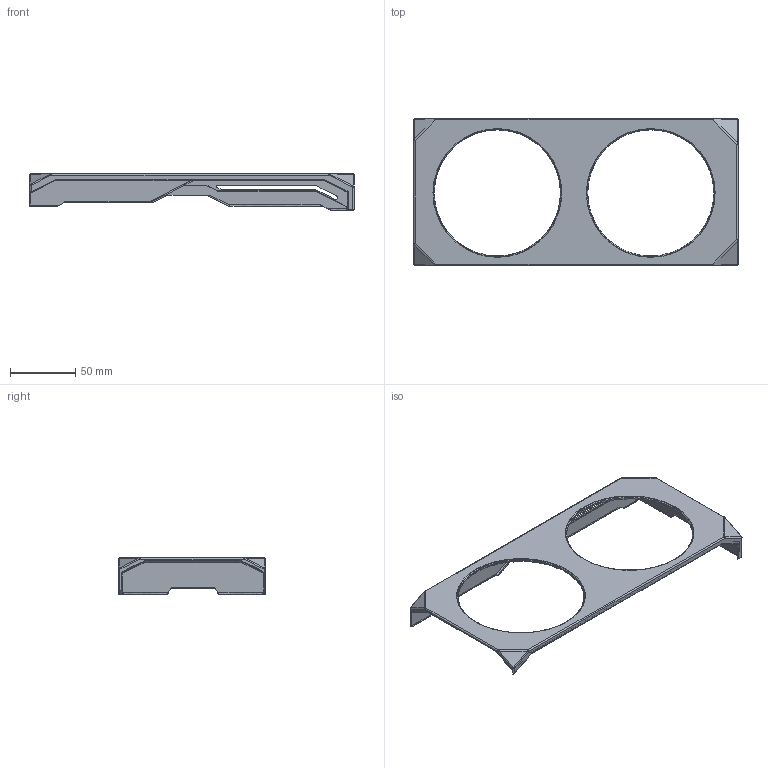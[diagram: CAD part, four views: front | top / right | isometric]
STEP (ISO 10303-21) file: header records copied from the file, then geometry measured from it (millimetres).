
FILE_DESCRIPTION((''),'2;1');
FILE_NAME('F306_MAKER_COVER','2023-04-18T15:16:00',('Kate'),(''),'CREO PARAMETRIC BY PTC INC, 2020281','CREO PARAMETRIC BY PTC INC, 2020281','');
FILE_SCHEMA(('CONFIG_CONTROL_DESIGN'));
Length unit declared in the file: millimetre
Products named in the file (1): F306_MAKER_COVER
Bounding box: 249.42 x 112.9 x 28 mm (x, y, z)
Volume: 56781.9 mm3; surface area: 47159.9 mm2
Topology: 1 solids, 1 shells, 452 faces, 1197 edges, 751 vertices
Faces by surface type: plane 281, cylinder 98, cone 20, bspline 18, sphere 14, torus 12, extrusion 9
Entity records: 14991 total; most frequent: CARTESIAN_POINT 4145, ORIENTED_EDGE 2394, DIRECTION 2094, EDGE_CURVE 1197, VERTEX_POINT 751, AXIS2_PLACEMENT_3D 746, VECTOR 602, LINE 593
